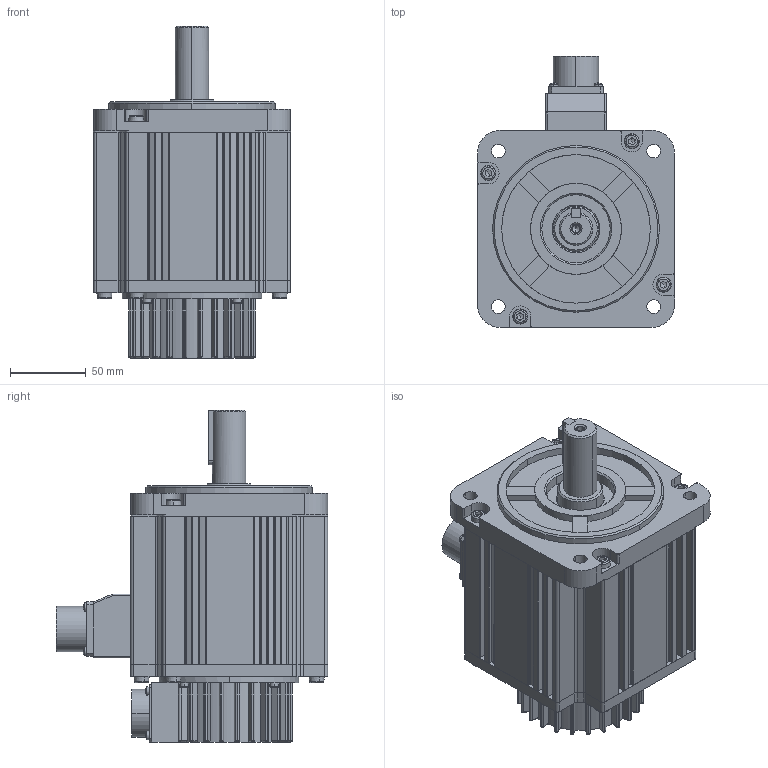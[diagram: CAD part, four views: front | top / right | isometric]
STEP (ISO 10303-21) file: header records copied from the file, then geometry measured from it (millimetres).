
FILE_DESCRIPTION (( 'STEP AP203' ), '1' );
FILE_NAME ('R130-1000.STEP', '2019-08-19T02:02:47', ( '1' ), ( 'MideaGroup IT' ), 'SwSTEP 2.0', 'SolidWorks 2012', '' );
FILE_SCHEMA (( 'CONFIG_CONTROL_DESIGN' ));
Length unit declared in the file: millimetre
Products named in the file (15): R130-1000; R130瑩; M3X10_GB_CROSS_SCREWS_TYPE1 M3X10-10  H type-N; M3X28_GB_FASTENER_SCREWS_HSHCS M3X25-C; M6X16-16-N_GB_HEXAGON_TYPE21 M6X16-16-N; ヶ傷裔-001; 萇埭盄瑤脣; 晤鎢ん瑤脣; 綴傷裔-002; 130-綴裔; 130-80B-瑤脣; 蛌赽郪璃-001; deep groove ball bearings gb_Rolling bearings 6206 GB 276-94; 130-85粣-001; 儂褲-001
Assembly tree (31 placements, depth 3):
  R130-1000
    儂褲-001
    蛌赽郪璃-001
      130-85粣-001
      deep groove ball bearings gb_Rolling bearings 6206 GB 276-94
    130-80B-瑤脣
    130-綴裔
    綴傷裔-002
    晤鎢ん瑤脣
    萇埭盄瑤脣
    ヶ傷裔-001
    M6X16-16-N_GB_HEXAGON_TYPE21 M6X16-16-N  x8
    M3X28_GB_FASTENER_SCREWS_HSHCS M3X25-C  x4
    M3X10_GB_CROSS_SCREWS_TYPE1 M3X10-10  H type-N  x8
    R130瑩
Bounding box: 130 x 179 x 219 mm (x, y, z)
Volume: 921623.4 mm3; surface area: 312741.9 mm2
Topology: 30 solids, 30 shells, 1550 faces, 4198 edges, 2681 vertices
Faces by surface type: cylinder 702, plane 532, sphere 132, torus 98, cone 54, bspline 32
Entity records: 42022 total; most frequent: CARTESIAN_POINT 9101, DIRECTION 6819, ORIENTED_EDGE 6352, EDGE_CURVE 3176, AXIS2_PLACEMENT_3D 2729, VERTEX_POINT 2051, CIRCLE 1489, EDGE_LOOP 1387
